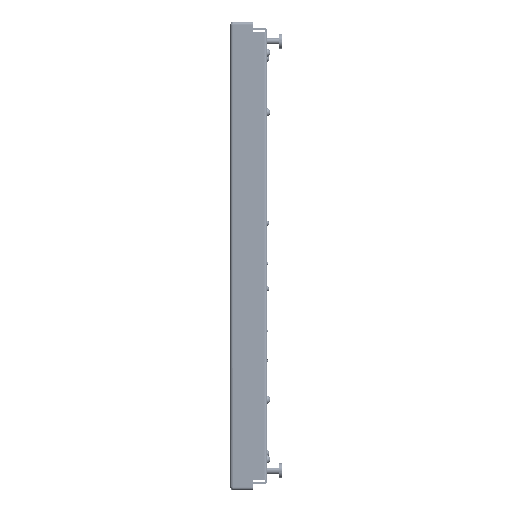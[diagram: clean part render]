
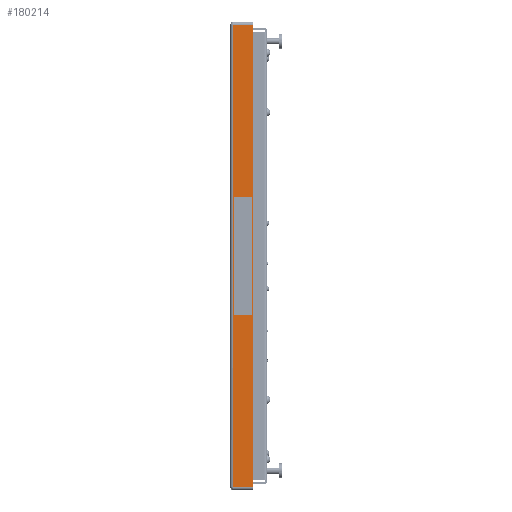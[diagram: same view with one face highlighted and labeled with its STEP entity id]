
A CAD part, left-side view. The second image highlights one B-rep face of the part: STEP entity #180214.
In plain terms, the highlighted planar face has unit normal (-1, 0, 0).
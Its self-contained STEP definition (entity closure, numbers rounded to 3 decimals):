
#3198 = CARTESIAN_POINT ( 'NONE',  ( -300., 0.813, -300. ) ) ;
#26438 = ORIENTED_EDGE ( 'NONE', *, *, #156494, .T. ) ;
#30219 = EDGE_CURVE ( 'NONE', #394995, #261742, #155980, .T. ) ;
#36555 = CARTESIAN_POINT ( 'NONE',  ( -300., 26.437, 0. ) ) ;
#76845 = VECTOR ( 'NONE', #161169, 1000. ) ;
#99023 = EDGE_CURVE ( 'NONE', #394995, #209419, #317477, .T. ) ;
#131330 = CARTESIAN_POINT ( 'NONE',  ( -300., 0., -296.27 ) ) ;
#155980 = LINE ( 'NONE', #3198, #76845 ) ;
#156494 = EDGE_CURVE ( 'NONE', #209419, #400759, #358701, .T. ) ;
#157018 = DIRECTION ( 'NONE',  ( 1., 0., 0. ) ) ;
#161169 = DIRECTION ( 'NONE',  ( 0., 0., -1. ) ) ;
#172123 = ORIENTED_EDGE ( 'NONE', *, *, #99023, .T. ) ;
#180214 = ADVANCED_FACE ( 'NONE', ( #332534 ), #375787, .F. ) ;
#197186 = DIRECTION ( 'NONE',  ( 0., 1., 0. ) ) ;
#209419 = VERTEX_POINT ( 'NONE', #384803 ) ;
#233180 = VECTOR ( 'NONE', #197186, 1000. ) ;
#255228 = CARTESIAN_POINT ( 'NONE',  ( -300., 26.437, -296.27 ) ) ;
#257970 = ORIENTED_EDGE ( 'NONE', *, *, #30219, .F. ) ;
#261742 = VERTEX_POINT ( 'NONE', #325997 ) ;
#281906 = VECTOR ( 'NONE', #325040, 1000. ) ;
#287419 = CARTESIAN_POINT ( 'NONE',  ( -300., 0.813, 296.27 ) ) ;
#294386 = VECTOR ( 'NONE', #381474, 1000. ) ;
#312086 = CARTESIAN_POINT ( 'NONE',  ( -300., 0., 0. ) ) ;
#317477 = LINE ( 'NONE', #380044, #233180 ) ;
#325040 = DIRECTION ( 'NONE',  ( 0., 1., 0. ) ) ;
#325997 = CARTESIAN_POINT ( 'NONE',  ( -300., 0.813, -296.27 ) ) ;
#332534 = FACE_OUTER_BOUND ( 'NONE', #346247, .T. ) ;
#339168 = ORIENTED_EDGE ( 'NONE', *, *, #396386, .F. ) ;
#346247 = EDGE_LOOP ( 'NONE', ( #257970, #172123, #26438, #339168 ) ) ;
#358701 = LINE ( 'NONE', #36555, #294386 ) ;
#373122 = DIRECTION ( 'NONE',  ( 0., 1., 0. ) ) ;
#375787 = PLANE ( 'NONE',  #379473 ) ;
#379473 = AXIS2_PLACEMENT_3D ( 'NONE', #312086, #157018, #373122 ) ;
#380044 = CARTESIAN_POINT ( 'NONE',  ( -300., 0., 296.27 ) ) ;
#381474 = DIRECTION ( 'NONE',  ( 0., 0., -1. ) ) ;
#384803 = CARTESIAN_POINT ( 'NONE',  ( -300., 26.437, 296.27 ) ) ;
#394995 = VERTEX_POINT ( 'NONE', #287419 ) ;
#396386 = EDGE_CURVE ( 'NONE', #261742, #400759, #400678, .T. ) ;
#400678 = LINE ( 'NONE', #131330, #281906 ) ;
#400759 = VERTEX_POINT ( 'NONE', #255228 ) ;
